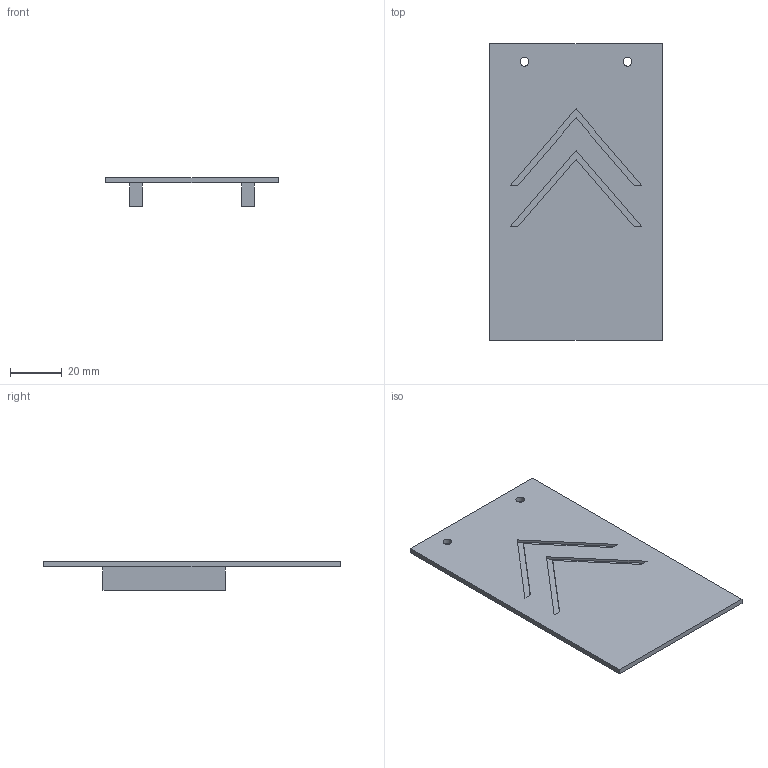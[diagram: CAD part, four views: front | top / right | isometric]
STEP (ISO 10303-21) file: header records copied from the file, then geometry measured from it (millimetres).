
FILE_DESCRIPTION(/* description */ ('STEP AP242 Edition 2','CAx-IF Rec.Pracs.---Representation and Presentation of Product Manufacturing Information (PMI)---4.0---2014-10-13','CAx-IF Rec.Pracs.---3D Tessellated Geometry---0.4---2014-09-14','2;1','CAx-IF Rec.Pracs.---User Defined Attributes---1.5---2016-08-15'),/* implementation_level */ '2;1');
FILE_NAME(/* name */ 'Arm Parts - ArmLayer1',/* time_stamp */ '2026-04-22T00:04:13Z',/* author */ (''),/* organization */ (''),/* preprocessor_version */ 'ST-DEVELOPER v20',/* originating_system */ 'ONSHAPE BY PTC INC, 1.213',/* authorisation */ ' ');
FILE_SCHEMA (('AP242_MANAGED_MODEL_BASED_3D_ENGINEERING_MIM_LF { 1 0 10303 442 3 1 4 }'));
Length unit declared in the file: metre
Products named in the file (1): ArmLayer1
Bounding box: 67 x 115 x 11 mm (x, y, z)
Volume: 19166.8 mm3; surface area: 18586.6 mm2
Topology: 1 solids, 1 shells, 40 faces, 90 edges, 60 vertices
Faces by surface type: plane 34, cylinder 6
Full cylindrical faces by diameter (mm): 2.2 x4, 3.4 x2
Entity records: 1106 total; most frequent: CARTESIAN_POINT 185, DIRECTION 178, ORIENTED_EDGE 168, EDGE_CURVE 84, LINE 72, VECTOR 72, VERTEX_POINT 60, EDGE_LOOP 58
